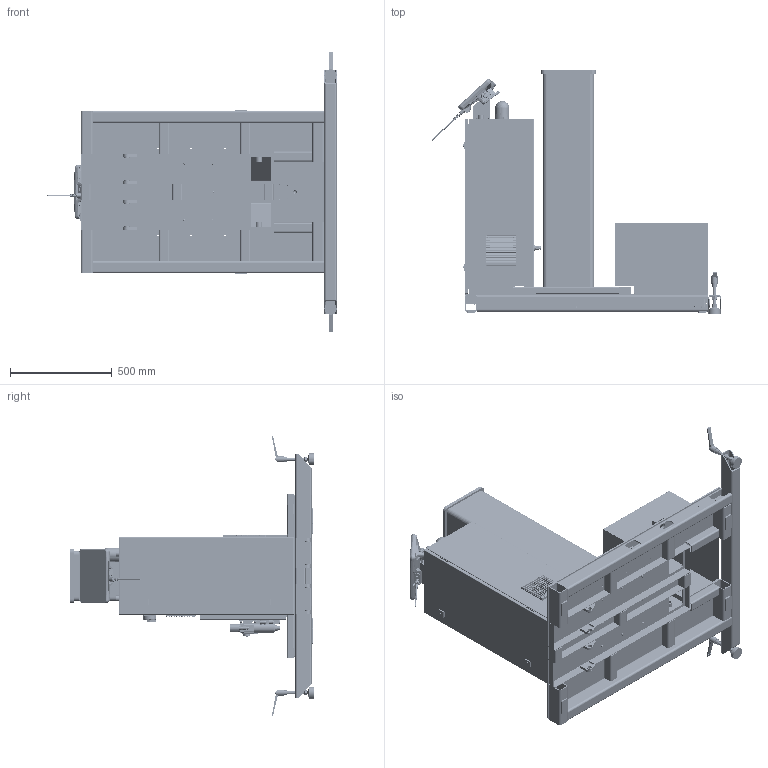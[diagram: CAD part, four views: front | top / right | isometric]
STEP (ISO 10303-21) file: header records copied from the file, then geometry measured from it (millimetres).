
FILE_DESCRIPTION (( 'STEP AP203' ), '1' );
FILE_NAME ('码垛工作站(液压叉车底盘+固定立柱)V2.0-20260511.STEP', '2026-05-11T05:35:26', ( '' ), ( '' ), 'SwSTEP 2.0', 'SolidWorks 2018', '' );
FILE_SCHEMA (( 'CONFIG_CONTROL_DESIGN' ));
Products named in the file (2): 码垛工作站(液压叉车底盘+固定立柱)V2.0-20260511
Bounding box: 1424.85 x 1197.6 x 1378 mm (x, y, z)
Surface area: 15017089.6 mm2 (no closed solid volume)
Topology: 0 solids, 237 shells, 12748 faces, 33599 edges, 21451 vertices
Faces by surface type: plane 7089, cylinder 3210, bspline 1278, cone 973, torus 156, sphere 42
Entity records: 522822 total; most frequent: CARTESIAN_POINT 228686, ORIENTED_EDGE 66590, DIRECTION 51754, EDGE_CURVE 33394, VERTEX_POINT 21438, AXIS2_PLACEMENT_3D 17268, VECTOR 17218, LINE 17218
